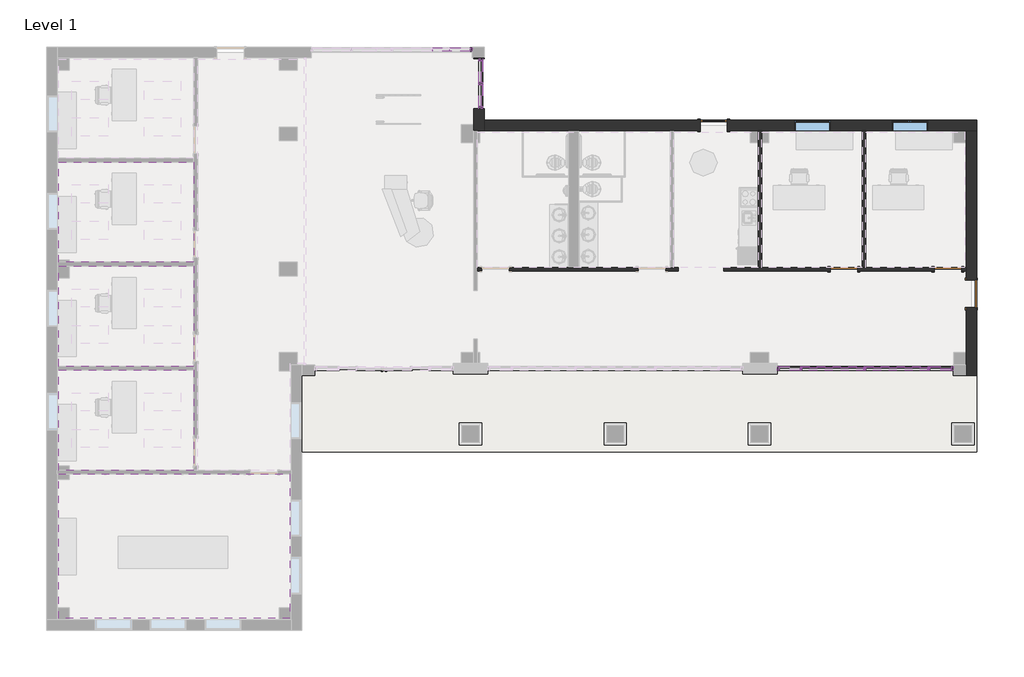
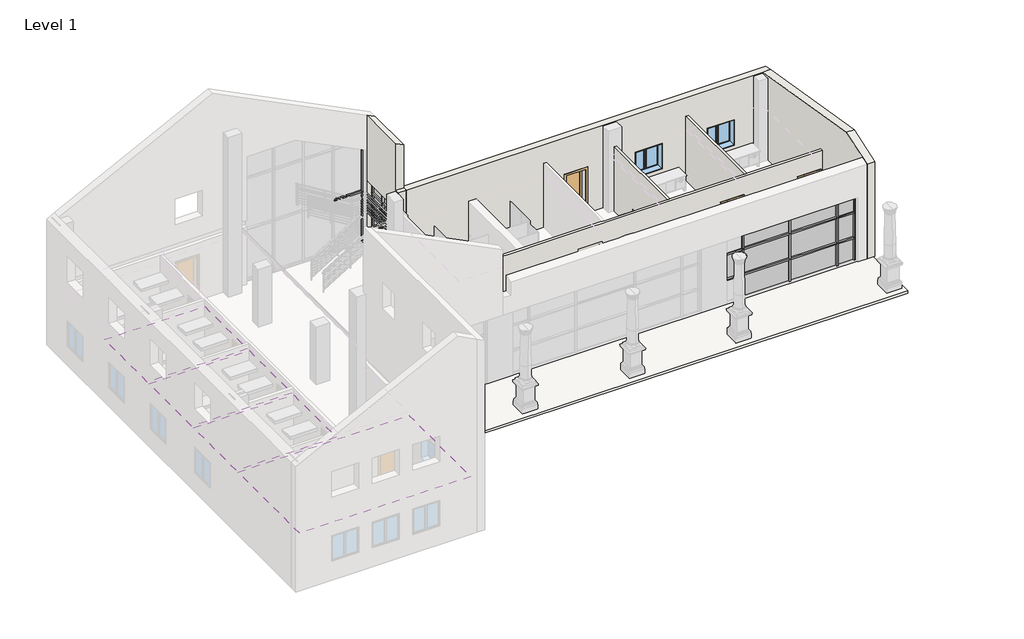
# One storey, part 3 of 8: 43 members, 14 plates, 6 walls, 4 coverings, 4 doors, 2 windows, 1 slab.
"""IFC4 building model written with IfcOpenShell, lengths in millimetres."""

from ifc_helpers import new_model, si_unit, point, frame, origin, origin_with_axes, place, context, project, spatial, polyline, ellipse_curve, trimmed, outline, extrude, faceted_brep, transform, mapped, element, save
from ifc_brep_helpers import plane_surface, extruded_surface, advanced_brep
from components import door_cc5399a4, door_88503111, door_14e9a3b2, member_a715cb85, member_2b49869a, member_4f1c84db, member_c7c5a8a0, member_a43dcf29, member_c4de40ee, member_75074519, member_13dc6413, member_3374d9b6, member_c17f1be2, member_f0fea5a5, member_ee409385, member_ba1b3d85, member_3a0a7659, member_7b995701, member_3ca69e07, member_338de68b, member_170a6c2d, member_29905024, member_21124f0b, member_e196a3dc, system_panel_glazed_93fe6fa7, system_panel_glazed_6ce5e085, system_panel_glazed_7b5ce646, system_panel_glazed_6c402c5f, system_panel_glazed_28aac04d, system_panel_glazed_65d20654, system_panel_glazed_ef97d2b3, system_panel_glazed_49c46af5, system_panel_solid_fb0cd2a2, window_75435c65

model = new_model("IFC4")

# Units and contexts
model_context = context("Model", 3, world=origin())
ifc_project = project(units=[si_unit("LENGTHUNIT", "METRE", prefix="MILLI")], contexts=[model_context])

# Site, building, storey
site = spatial("IfcSite", under=ifc_project)
building = spatial("IfcBuilding", under=site)
storey = spatial("IfcBuildingStorey", under=building, Name="Level 1", Elevation=0.0)

# Coverings
placement = place(None, origin())
element("IfcCovering", 1, ObjectType="2' x 4' ACT System", at=placement, inside=storey, context=model_context, shape_type="SweptSolid", body=[
    extrude(outline(polyline([(-13532.9016552, 7087.3730424), (-9011.7016552, 7087.3730424), (-9011.7016552, 3729.8105424), (-13532.9016552, 3729.8105424), (-13532.9016552, 7087.3730424)]), holes=[polyline([(-11881.9016552, 5713.3917924), (-11881.9016552, 6322.9917924), (-13101.1016552, 6322.9917924), (-13101.1016552, 5713.3917924), (-11881.9016552, 5713.3917924)]), polyline([(-10662.7016552, 5713.3917924), (-9443.5016552, 5713.3917924), (-9443.5016552, 6322.9917924), (-10662.7016552, 6322.9917924), (-10662.7016552, 5713.3917924)]), polyline([(-10662.7016552, 4494.1917924), (-9443.5016552, 4494.1917924), (-9443.5016552, 5103.7917924), (-10662.7016552, 5103.7917924), (-10662.7016552, 4494.1917924)]), polyline([(-11881.9016552, 5103.7917924), (-13101.1016552, 5103.7917924), (-13101.1016552, 4494.1917924), (-11881.9016552, 4494.1917924), (-11881.9016552, 5103.7917924)])]), frame((0.0, 0.0, 2438.4), z_axis=(0.0, 0.0, 1.0), x_axis=(1.0, 0.0, 0.0)), (0.0, 0.0, 1.0), 57.15),
])
element("IfcCovering", 2, ObjectType="2' x 4' ACT System", at=placement, inside=storey, context=model_context, shape_type="SweptSolid", body=[
    extrude(outline(polyline([(-13532.9016552, 3605.9855424), (-9011.7016552, 3605.9855424), (-9011.7016552, 248.4230424), (-13532.9016552, 248.4230424), (-13532.9016552, 3605.9855424)]), holes=[polyline([(-11881.9016552, 2232.0042924), (-11881.9016552, 2841.6042924), (-13101.1016552, 2841.6042924), (-13101.1016552, 2232.0042924), (-11881.9016552, 2232.0042924)]), polyline([(-10662.7016552, 2232.0042924), (-9443.5016552, 2232.0042924), (-9443.5016552, 2841.6042924), (-10662.7016552, 2841.6042924), (-10662.7016552, 2232.0042924)]), polyline([(-10662.7016552, 1012.8042924), (-9443.5016552, 1012.8042924), (-9443.5016552, 1622.4042924), (-10662.7016552, 1622.4042924), (-10662.7016552, 1012.8042924)]), polyline([(-11881.9016552, 1622.4042924), (-13101.1016552, 1622.4042924), (-13101.1016552, 1012.8042924), (-11881.9016552, 1012.8042924), (-11881.9016552, 1622.4042924)])]), frame((0.0, 0.0, 2438.4), z_axis=(0.0, 0.0, 1.0), x_axis=(1.0, 0.0, 0.0)), (0.0, 0.0, 1.0), 57.15),
])
element("IfcCovering", 3, ObjectType="2' x 4' ACT System", at=placement, inside=storey, context=model_context, shape_type="SweptSolid", body=[
    extrude(outline(polyline([(-13532.9016552, 124.5980424), (-9011.7016552, 124.5980424), (-9011.7016552, -3232.9644576), (-13532.9016552, -3232.9644576), (-13532.9016552, 124.5980424)]), holes=[polyline([(-11881.9016552, -1249.3832076), (-11881.9016552, -639.7832076), (-13101.1016552, -639.7832076), (-13101.1016552, -1249.3832076), (-11881.9016552, -1249.3832076)]), polyline([(-10662.7016552, -1249.3832076), (-9443.5016552, -1249.3832076), (-9443.5016552, -639.7832076), (-10662.7016552, -639.7832076), (-10662.7016552, -1249.3832076)]), polyline([(-10662.7016552, -2468.5832076), (-9443.5016552, -2468.5832076), (-9443.5016552, -1858.9832076), (-10662.7016552, -1858.9832076), (-10662.7016552, -2468.5832076)]), polyline([(-11881.9016552, -1858.9832076), (-13101.1016552, -1858.9832076), (-13101.1016552, -2468.5832076), (-11881.9016552, -2468.5832076), (-11881.9016552, -1858.9832076)])]), frame((0.0, 0.0, 2438.4), z_axis=(0.0, 0.0, 1.0), x_axis=(1.0, 0.0, 0.0)), (0.0, 0.0, 1.0), 57.15),
])
element("IfcCovering", 4, ObjectType="5/8\" GWB on Mtl. Stud", at=placement, inside=storey, context=model_context, shape_type="SweptSolid", body=[
    extrude(outline(polyline([(-13532.9016552, -3356.7894576), (-5804.9516552, -3356.7894576), (-5804.9516552, -8182.7894576), (-13532.9016552, -8182.7894576), (-13532.9016552, -3356.7894576)])), frame((0.0, 0.0, 2438.4), z_axis=(0.0, 0.0, 1.0), x_axis=(1.0, 0.0, 0.0)), (0.0, 0.0, 1.0), 107.95),
])

# Doors
door_shape = door_cc5399a4(model_context)
element("IfcDoor", 5, ObjectType="Single-Flush : 36\" x 84\"", at=placement, inside=storey, context=model_context, shape_type="MappedRepresentation", body=[
    mapped(door_shape, transform((16977.2608448, 2672.5355424, 0.0), x_axis=(0.0, 1.0, 0.0), y_axis=(-1.0, 0.0, 0.0), z_axis=(0.0, 0.0, 1.0))),
])
door_2_shape = door_88503111(model_context)
element("IfcDoor", 6, ObjectType="Single-Flush : 36\" x 84\"", at=placement, inside=storey, context=model_context, shape_type="MappedRepresentation", body=[
    mapped(door_2_shape, transform((16191.4483448, 3496.4480424, 0.0), x_axis=(1.0, 0.0, 0.0), y_axis=(0.0, 1.0, 0.0), z_axis=(0.0, 0.0, 1.0))),
])
element("IfcDoor", 7, ObjectType="Single-Flush : 36\" x 84\"", at=placement, inside=storey, context=model_context, shape_type="MappedRepresentation", body=[
    mapped(door_2_shape, transform((12714.8233448, 3496.4480424, 0.0), x_axis=(1.0, 0.0, 0.0), y_axis=(0.0, 1.0, 0.0), z_axis=(0.0, 0.0, 1.0))),
])
door_3_shape = door_14e9a3b2(model_context)
element("IfcDoor", 8, ObjectType="Single-Glass 1 : 36\" x 84\"", at=placement, inside=storey, context=model_context, shape_type="MappedRepresentation", body=[
    mapped(door_3_shape, transform((8365.0733448, 8306.5730424, 0.0), x_axis=(1.0, 0.0, 0.0), y_axis=(0.0, 1.0, 0.0), z_axis=(0.0, 0.0, 1.0))),
])

# Members
member_shape = member_a715cb85(model_context)
element("IfcMember", 9, ObjectType="Rectangular Mullion : 2.5\" x 5\" Rectangular", at=placement, inside=storey, context=model_context, shape_type="MappedRepresentation", body=[
    mapped(member_shape, transform((10519.3108448, 175.3980424, 0.0), x_axis=(1.0, 0.0, 0.0), y_axis=(0.0, -1.0, 0.0), z_axis=(0.0, 0.0, -1.0))),
])
element("IfcMember", 10, ObjectType="Rectangular Mullion : 2.5\" x 5\" Rectangular", at=placement, inside=storey, context=model_context, shape_type="MappedRepresentation", body=[
    mapped(member_shape, transform((11281.3108448, 175.3980424, 0.0), x_axis=(1.0, 0.0, 0.0), y_axis=(0.0, -1.0, 0.0), z_axis=(0.0, 0.0, -1.0))),
])
element("IfcMember", 11, ObjectType="Rectangular Mullion : 2.5\" x 5\" Rectangular", at=placement, inside=storey, context=model_context, shape_type="MappedRepresentation", body=[
    mapped(member_shape, transform((13414.9108448, 175.3980424, 0.0), x_axis=(1.0, 0.0, 0.0), y_axis=(0.0, -1.0, 0.0), z_axis=(0.0, 0.0, -1.0))),
])
element("IfcMember", 12, ObjectType="Rectangular Mullion : 2.5\" x 5\" Rectangular", at=placement, inside=storey, context=model_context, shape_type="MappedRepresentation", body=[
    mapped(member_shape, transform((15548.5108448, 175.3980424, 0.0), x_axis=(1.0, 0.0, 0.0), y_axis=(0.0, -1.0, 0.0), z_axis=(0.0, 0.0, -1.0))),
])
member_2_shape = member_2b49869a(model_context)
element("IfcMember", 13, ObjectType="Rectangular Mullion : 2.5\" x 5\" Rectangular", at=placement, inside=storey, context=model_context, shape_type="MappedRepresentation", body=[
    mapped(member_2_shape, transform((10519.3108448, 175.3980424, 1066.8), x_axis=(1.0, 0.0, 0.0), y_axis=(0.0, -1.0, 0.0), z_axis=(0.0, 0.0, -1.0))),
])
element("IfcMember", 14, ObjectType="Rectangular Mullion : 2.5\" x 5\" Rectangular", at=placement, inside=storey, context=model_context, shape_type="MappedRepresentation", body=[
    mapped(member_2_shape, transform((11281.3108448, 175.3980424, 1066.8), x_axis=(1.0, 0.0, 0.0), y_axis=(0.0, -1.0, 0.0), z_axis=(0.0, 0.0, -1.0))),
])
element("IfcMember", 15, ObjectType="Rectangular Mullion : 2.5\" x 5\" Rectangular", at=placement, inside=storey, context=model_context, shape_type="MappedRepresentation", body=[
    mapped(member_2_shape, transform((13414.9108448, 175.3980424, 1066.8), x_axis=(1.0, 0.0, 0.0), y_axis=(0.0, -1.0, 0.0), z_axis=(0.0, 0.0, -1.0))),
])
element("IfcMember", 16, ObjectType="Rectangular Mullion : 2.5\" x 5\" Rectangular", at=placement, inside=storey, context=model_context, shape_type="MappedRepresentation", body=[
    mapped(member_2_shape, transform((15548.5108448, 175.3980424, 1066.8), x_axis=(1.0, 0.0, 0.0), y_axis=(0.0, -1.0, 0.0), z_axis=(0.0, 0.0, -1.0))),
])
member_3_shape = member_4f1c84db(model_context)
element("IfcMember", 17, ObjectType="Rectangular Mullion : 2.5\" x 5\" Rectangular", at=placement, inside=storey, context=model_context, shape_type="MappedRepresentation", body=[
    mapped(member_3_shape, transform((15516.7608448, 175.3980424, 2286.0), x_axis=(0.0, 0.0, 1.0), y_axis=(0.0, -1.0, 0.0), z_axis=(1.0, 0.0, 0.0))),
])
element("IfcMember", 18, ObjectType="Rectangular Mullion : 2.5\" x 5\" Rectangular", at=placement, inside=storey, context=model_context, shape_type="MappedRepresentation", body=[
    mapped(member_3_shape, transform((13383.1608448, 175.3980424, 2286.0), x_axis=(0.0, 0.0, 1.0), y_axis=(0.0, -1.0, 0.0), z_axis=(1.0, 0.0, 0.0))),
])
element("IfcMember", 19, ObjectType="Rectangular Mullion : 2.5\" x 5\" Rectangular", at=placement, inside=storey, context=model_context, shape_type="MappedRepresentation", body=[
    mapped(member_3_shape, transform((13383.1608448, 175.3980424, 1066.8), x_axis=(0.0, 0.0, 1.0), y_axis=(0.0, -1.0, 0.0), z_axis=(1.0, 0.0, 0.0))),
])
element("IfcMember", 20, ObjectType="Rectangular Mullion : 2.5\" x 5\" Rectangular", at=placement, inside=storey, context=model_context, shape_type="MappedRepresentation", body=[
    mapped(member_3_shape, transform((15516.7608448, 175.3980424, 1066.8), x_axis=(0.0, 0.0, 1.0), y_axis=(0.0, -1.0, 0.0), z_axis=(1.0, 0.0, 0.0))),
])
member_4_shape = member_c7c5a8a0(model_context)
element("IfcMember", 21, ObjectType="Rectangular Mullion : 2.5\" x 5\" Rectangular", at=placement, inside=storey, context=model_context, shape_type="MappedRepresentation", body=[
    mapped(member_4_shape, transform((11249.5608448, 175.3980424, 2286.0), x_axis=(0.0, 0.0, 1.0), y_axis=(0.0, -1.0, 0.0), z_axis=(1.0, 0.0, 0.0))),
])
element("IfcMember", 22, ObjectType="Rectangular Mullion : 2.5\" x 5\" Rectangular", at=placement, inside=storey, context=model_context, shape_type="MappedRepresentation", body=[
    mapped(member_4_shape, transform((11249.5608448, 175.3980424, 1066.8), x_axis=(0.0, 0.0, 1.0), y_axis=(0.0, -1.0, 0.0), z_axis=(1.0, 0.0, 0.0))),
])
member_5_shape = member_a43dcf29(model_context)
element("IfcMember", 23, ObjectType="Rectangular Mullion : 2.5\" x 5\" Rectangular", at=placement, inside=storey, context=model_context, shape_type="MappedRepresentation", body=[
    mapped(member_5_shape, transform((16304.1608448, 175.3980424, 2286.0), x_axis=(0.0, 0.0, 1.0), y_axis=(0.0, -1.0, 0.0), z_axis=(1.0, 0.0, 0.0))),
])
element("IfcMember", 24, ObjectType="Rectangular Mullion : 2.5\" x 5\" Rectangular", at=placement, inside=storey, context=model_context, shape_type="MappedRepresentation", body=[
    mapped(member_5_shape, transform((16304.1608448, 175.3980424, 1066.8), x_axis=(0.0, 0.0, 1.0), y_axis=(0.0, -1.0, 0.0), z_axis=(1.0, 0.0, 0.0))),
])
member_6_shape = member_c4de40ee(model_context)
element("IfcMember", 25, ObjectType="Rectangular Mullion : 2.5\" x 5\" Rectangular", at=placement, inside=storey, context=model_context, shape_type="MappedRepresentation", body=[
    mapped(member_6_shape, transform((16367.6608448, 175.3980424, 0.0), x_axis=(1.0, 0.0, 0.0), y_axis=(0.0, -1.0, 0.0), z_axis=(0.0, 0.0, -1.0))),
])
member_7_shape = member_75074519(model_context)
element("IfcMember", 26, ObjectType="Rectangular Mullion : 2.5\" x 5\" Rectangular", at=placement, inside=storey, context=model_context, shape_type="MappedRepresentation", body=[
    mapped(member_7_shape, transform((16367.6608448, 175.3980424, 1066.8), x_axis=(1.0, 0.0, 0.0), y_axis=(0.0, -1.0, 0.0), z_axis=(0.0, 0.0, -1.0))),
])
member_8_shape = member_13dc6413(model_context)
element("IfcMember", 27, ObjectType="Rectangular Mullion : 2.5\" x 5\" Rectangular", at=placement, inside=storey, context=model_context, shape_type="MappedRepresentation", body=[
    mapped(member_8_shape, transform((11281.3108448, 175.3980424, 3060.0), x_axis=(0.0, 0.0, 1.0), y_axis=(0.0, -1.0, 0.0), z_axis=(1.0, 0.0, 0.0))),
])
member_9_shape = member_3374d9b6(model_context)
element("IfcMember", 28, ObjectType="Rectangular Mullion : 2.5\" x 5\" Rectangular", at=placement, inside=storey, context=model_context, shape_type="MappedRepresentation", body=[
    mapped(member_9_shape, transform((15548.5108448, 175.3980424, 3060.0), x_axis=(0.0, 0.0, 1.0), y_axis=(0.0, -1.0, 0.0), z_axis=(1.0, 0.0, 0.0))),
])
element("IfcMember", 29, ObjectType="Rectangular Mullion : 2.5\" x 5\" Rectangular", at=placement, inside=storey, context=model_context, shape_type="MappedRepresentation", body=[
    mapped(member_9_shape, transform((13414.9108448, 175.3980424, 3060.0), x_axis=(0.0, 0.0, 1.0), y_axis=(0.0, -1.0, 0.0), z_axis=(1.0, 0.0, 0.0))),
])
member_10_shape = member_c17f1be2(model_context)
element("IfcMember", 30, ObjectType="Rectangular Mullion : 2.5\" x 5\" Rectangular", at=placement, inside=storey, context=model_context, shape_type="MappedRepresentation", body=[
    mapped(member_10_shape, transform((16367.6608448, 175.3980424, 3060.0), x_axis=(0.0, 0.0, 1.0), y_axis=(0.0, -1.0, 0.0), z_axis=(1.0, 0.0, 0.0))),
])
member_11_shape = member_f0fea5a5(model_context)
element("IfcMember", 31, ObjectType="Rectangular Mullion : 2.5\" x 5\" Rectangular", at=placement, inside=storey, context=model_context, shape_type="MappedRepresentation", body=[
    mapped(member_11_shape, transform((581.5608448, 9701.9855424, 0.0), x_axis=(0.0, -1.0, 0.0), y_axis=(-1.0, 0.0, 0.0), z_axis=(0.0, 0.0, -1.0))),
])
member_12_shape = member_ee409385(model_context)
element("IfcMember", 32, ObjectType="Rectangular Mullion : 2.5\" x 5\" Rectangular", at=placement, inside=storey, context=model_context, shape_type="MappedRepresentation", body=[
    mapped(member_12_shape, transform((291.0483448, 10846.5730424, 0.0), x_axis=(1.0, 0.0, 0.0), y_axis=(0.0, -1.0, 0.0), z_axis=(0.0, 0.0, -1.0))),
])
element("IfcMember", 33, ObjectType="Rectangular Mullion : 2.5\" x 5\" Rectangular", at=placement, inside=storey, context=model_context, shape_type="MappedRepresentation", body=[
    mapped(member_12_shape, transform((581.5608448, 8863.7855424, 0.0), x_axis=(0.0, -1.0, 0.0), y_axis=(-1.0, 0.0, 0.0), z_axis=(0.0, 0.0, -1.0))),
])
element("IfcMember", 34, ObjectType="Rectangular Mullion : 2.5\" x 5\" Rectangular", at=placement, inside=storey, context=model_context, shape_type="MappedRepresentation", body=[
    mapped(member_12_shape, transform((581.5608448, 10540.1855424, 2438.4), x_axis=(0.0, 1.0, 0.0), y_axis=(-1.0, 0.0, 0.0), z_axis=(0.0, 0.0, 1.0))),
])
member_13_shape = member_ba1b3d85(model_context)
element("IfcMember", 35, ObjectType="Rectangular Mullion : 2.5\" x 5\" Rectangular", at=placement, inside=storey, context=model_context, shape_type="MappedRepresentation", body=[
    mapped(member_13_shape, transform((227.5483448, 10846.5730424, 2438.4), x_axis=(0.0, 0.0, 1.0), y_axis=(0.0, -1.0, 0.0), z_axis=(1.0, 0.0, 0.0))),
])
member_14_shape = member_3a0a7659(model_context)
element("IfcMember", 36, ObjectType="Rectangular Mullion : 2.5\" x 5\" Rectangular", at=placement, inside=storey, context=model_context, shape_type="MappedRepresentation", body=[
    mapped(member_14_shape, transform((581.5608448, 8927.2855424, 3060.0), x_axis=(0.0, 0.0, 1.0), y_axis=(-1.0, 0.0, 0.0), z_axis=(0.0, -1.0, 0.0))),
])
element("IfcMember", 37, ObjectType="Rectangular Mullion : 2.5\" x 5\" Rectangular", at=placement, inside=storey, context=model_context, shape_type="MappedRepresentation", body=[
    mapped(member_14_shape, transform((581.5608448, 9733.7355424, 3060.0), x_axis=(0.0, 0.0, 1.0), y_axis=(-1.0, 0.0, 0.0), z_axis=(0.0, -1.0, 0.0))),
])
element("IfcMember", 38, ObjectType="Rectangular Mullion : 2.5\" x 5\" Rectangular", at=placement, inside=storey, context=model_context, shape_type="MappedRepresentation", body=[
    mapped(member_14_shape, transform((581.5608448, 10476.6855424, 0.0), x_axis=(0.0, 0.0, -1.0), y_axis=(-1.0, 0.0, 0.0), z_axis=(0.0, 1.0, 0.0))),
])
element("IfcMember", 39, ObjectType="Rectangular Mullion : 2.5\" x 5\" Rectangular", at=placement, inside=storey, context=model_context, shape_type="MappedRepresentation", body=[
    mapped(member_14_shape, transform((581.5608448, 9670.2355424, 0.0), x_axis=(0.0, 0.0, -1.0), y_axis=(-1.0, 0.0, 0.0), z_axis=(0.0, 1.0, 0.0))),
])
member_15_shape = member_7b995701(model_context)
element("IfcMember", 40, ObjectType="Rectangular Mullion : 2.5\" x 5\" Rectangular", at=placement, inside=storey, context=model_context, shape_type="MappedRepresentation", body=[
    mapped(member_15_shape, transform((581.5608448, 9733.7355424, 2438.4), x_axis=(0.0, 0.0, 1.0), y_axis=(-1.0, 0.0, 0.0), z_axis=(0.0, -1.0, 0.0))),
])
element("IfcMember", 41, ObjectType="Rectangular Mullion : 2.5\" x 5\" Rectangular", at=placement, inside=storey, context=model_context, shape_type="MappedRepresentation", body=[
    mapped(member_15_shape, transform((581.5608448, 8927.2855424, 2438.4), x_axis=(0.0, 0.0, 1.0), y_axis=(-1.0, 0.0, 0.0), z_axis=(0.0, -1.0, 0.0))),
])
member_16_shape = member_3ca69e07(model_context)
element("IfcMember", 42, ObjectType="Rectangular Mullion : 2.5\" x 5\" Rectangular", at=placement, inside=storey, context=model_context, shape_type="MappedRepresentation", body=[
    mapped(member_16_shape, transform((10519.3108448, 175.3980424, 2286.0), x_axis=(1.0, 0.0, 0.0), y_axis=(0.0, -1.0, 0.0), z_axis=(0.0, 0.0, -1.0))),
])
element("IfcMember", 43, ObjectType="Rectangular Mullion : 2.5\" x 5\" Rectangular", at=placement, inside=storey, context=model_context, shape_type="MappedRepresentation", body=[
    mapped(member_16_shape, transform((11281.3108448, 175.3980424, 2286.0), x_axis=(1.0, 0.0, 0.0), y_axis=(0.0, -1.0, 0.0), z_axis=(0.0, 0.0, -1.0))),
])
element("IfcMember", 44, ObjectType="Rectangular Mullion : 2.5\" x 5\" Rectangular", at=placement, inside=storey, context=model_context, shape_type="MappedRepresentation", body=[
    mapped(member_16_shape, transform((13414.9108448, 175.3980424, 2286.0), x_axis=(1.0, 0.0, 0.0), y_axis=(0.0, -1.0, 0.0), z_axis=(0.0, 0.0, -1.0))),
])
element("IfcMember", 45, ObjectType="Rectangular Mullion : 2.5\" x 5\" Rectangular", at=placement, inside=storey, context=model_context, shape_type="MappedRepresentation", body=[
    mapped(member_16_shape, transform((15548.5108448, 175.3980424, 2286.0), x_axis=(1.0, 0.0, 0.0), y_axis=(0.0, -1.0, 0.0), z_axis=(0.0, 0.0, -1.0))),
])
member_17_shape = member_338de68b(model_context)
element("IfcMember", 46, ObjectType="Rectangular Mullion : 2.5\" x 5\" Rectangular", at=placement, inside=storey, context=model_context, shape_type="MappedRepresentation", body=[
    mapped(member_17_shape, transform((16367.6608448, 175.3980424, 2286.0), x_axis=(1.0, 0.0, 0.0), y_axis=(0.0, -1.0, 0.0), z_axis=(0.0, 0.0, -1.0))),
])
member_18_shape = member_170a6c2d(model_context)
element("IfcMember", 47, ObjectType="Rectangular Mullion : 2.5\" x 5\" Rectangular", at=placement, inside=storey, context=model_context, shape_type="MappedRepresentation", body=[
    mapped(member_18_shape, transform((291.0483448, 10846.5730424, 4512.0662011), x_axis=(0.4472135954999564, 0.0, 0.8944271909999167), y_axis=(0.0, -1.0, 0.0), z_axis=(0.8944271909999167, 0.0, -0.4472135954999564))),
])
member_19_shape = member_29905024(model_context)
element("IfcMember", 48, ObjectType="Rectangular Mullion : 2.5\" x 5\" Rectangular", at=placement, inside=storey, context=model_context, shape_type="MappedRepresentation", body=[
    mapped(member_19_shape, transform((291.0483448, 10846.5730424, 2438.4), x_axis=(1.0, 0.0, 0.0), y_axis=(0.0, -1.0, 0.0), z_axis=(0.0, 0.0, -1.0))),
])
member_20_shape = member_21124f0b(model_context)
element("IfcMember", 49, ObjectType="Rectangular Mullion : 2.5\" x 5\" Rectangular", at=placement, inside=storey, context=model_context, shape_type="MappedRepresentation", body=[
    mapped(member_20_shape, transform((581.5608448, 9701.9855424, 2438.4), x_axis=(0.0, -1.0, 0.0), y_axis=(-1.0, 0.0, 0.0), z_axis=(0.0, 0.0, -1.0))),
])
member_21_shape = member_e196a3dc(model_context)
element("IfcMember", 50, ObjectType="Rectangular Mullion : 2.5\" x 5\" Rectangular", at=placement, inside=storey, context=model_context, shape_type="MappedRepresentation", body=[
    mapped(member_21_shape, transform((581.5608448, 8863.7855424, 2438.4), x_axis=(0.0, -1.0, 0.0), y_axis=(-1.0, 0.0, 0.0), z_axis=(0.0, 0.0, -1.0))),
])
element("IfcMember", 51, ObjectType="Rectangular Mullion : 2.5\" x 5\" Rectangular", at=placement, inside=storey, context=model_context, shape_type="MappedRepresentation", body=[
    mapped(member_21_shape, transform((581.5608448, 10540.1855424, 3060.0), x_axis=(0.0, 1.0, 0.0), y_axis=(-1.0, 0.0, 0.0), z_axis=(0.0, 0.0, 1.0))),
])

# Plates
system_panel_glazed_shape = system_panel_glazed_93fe6fa7(model_context)
element("IfcPlate", 52, ObjectType="System Panel : Glazed", at=placement, inside=storey, context=model_context, shape_type="MappedRepresentation", body=[
    mapped(system_panel_glazed_shape, transform((12348.1108448, 175.3980424, 0.0), x_axis=(1.0, 0.0, 0.0), y_axis=(0.0, 1.0, 0.0), z_axis=(0.0, 0.0, 1.0))),
])
element("IfcPlate", 53, ObjectType="System Panel : Glazed", at=placement, inside=storey, context=model_context, shape_type="MappedRepresentation", body=[
    mapped(system_panel_glazed_shape, transform((14481.7108448, 175.3980424, 0.0), x_axis=(1.0, 0.0, 0.0), y_axis=(0.0, 1.0, 0.0), z_axis=(0.0, 0.0, 1.0))),
])
system_panel_glazed_2_shape = system_panel_glazed_6ce5e085(model_context)
element("IfcPlate", 54, ObjectType="System Panel : Glazed", at=placement, inside=storey, context=model_context, shape_type="MappedRepresentation", body=[
    mapped(system_panel_glazed_2_shape, transform((12348.1108448, 175.3980424, 1098.55), x_axis=(1.0, 0.0, 0.0), y_axis=(0.0, 1.0, 0.0), z_axis=(0.0, 0.0, 1.0))),
])
element("IfcPlate", 55, ObjectType="System Panel : Glazed", at=placement, inside=storey, context=model_context, shape_type="MappedRepresentation", body=[
    mapped(system_panel_glazed_2_shape, transform((14481.7108448, 175.3980424, 1098.55), x_axis=(1.0, 0.0, 0.0), y_axis=(0.0, 1.0, 0.0), z_axis=(0.0, 0.0, 1.0))),
])
system_panel_glazed_3_shape = system_panel_glazed_7b5ce646(model_context)
element("IfcPlate", 56, ObjectType="System Panel : Glazed", at=placement, inside=storey, context=model_context, shape_type="MappedRepresentation", body=[
    mapped(system_panel_glazed_3_shape, transform((10900.3108448, 175.3980424, 1098.55), x_axis=(1.0, 0.0, 0.0), y_axis=(0.0, 1.0, 0.0), z_axis=(0.0, 0.0, 1.0))),
])
system_panel_glazed_4_shape = system_panel_glazed_6c402c5f(model_context)
element("IfcPlate", 57, ObjectType="System Panel : Glazed", at=placement, inside=storey, context=model_context, shape_type="MappedRepresentation", body=[
    mapped(system_panel_glazed_4_shape, transform((15942.2108448, 175.3980424, 0.0), x_axis=(1.0, 0.0, 0.0), y_axis=(0.0, 1.0, 0.0), z_axis=(0.0, 0.0, 1.0))),
])
system_panel_glazed_5_shape = system_panel_glazed_28aac04d(model_context)
element("IfcPlate", 58, ObjectType="System Panel : Glazed", at=placement, inside=storey, context=model_context, shape_type="MappedRepresentation", body=[
    mapped(system_panel_glazed_5_shape, transform((15942.2108448, 175.3980424, 1098.55), x_axis=(1.0, 0.0, 0.0), y_axis=(0.0, 1.0, 0.0), z_axis=(0.0, 0.0, 1.0))),
])
system_panel_glazed_6_shape = system_panel_glazed_65d20654(model_context)
element("IfcPlate", 59, ObjectType="System Panel : Glazed", at=placement, inside=storey, context=model_context, shape_type="MappedRepresentation", body=[
    mapped(system_panel_glazed_6_shape, transform((581.5608448, 10105.2105424, 63.5), x_axis=(0.0, -1.0, 0.0), y_axis=(1.0, 0.0, 0.0), z_axis=(0.0, 0.0, 1.0))),
])
element("IfcPlate", 60, ObjectType="System Panel : Glazed", at=placement, inside=storey, context=model_context, shape_type="MappedRepresentation", body=[
    mapped(system_panel_glazed_6_shape, transform((581.5608448, 9298.7605424, 63.5), x_axis=(0.0, -1.0, 0.0), y_axis=(1.0, 0.0, 0.0), z_axis=(0.0, 0.0, 1.0))),
])
system_panel_glazed_7_shape = system_panel_glazed_ef97d2b3(model_context)
element("IfcPlate", 61, ObjectType="System Panel : Glazed", at=placement, inside=storey, context=model_context, shape_type="MappedRepresentation", body=[
    mapped(system_panel_glazed_7_shape, transform((12348.1108448, 175.3980424, 2317.75), x_axis=(1.0, 0.0, 0.0), y_axis=(0.0, 1.0, 0.0), z_axis=(0.0, 0.0, 1.0))),
])
element("IfcPlate", 62, ObjectType="System Panel : Glazed", at=placement, inside=storey, context=model_context, shape_type="MappedRepresentation", body=[
    mapped(system_panel_glazed_7_shape, transform((14481.7108448, 175.3980424, 2317.75), x_axis=(1.0, 0.0, 0.0), y_axis=(0.0, 1.0, 0.0), z_axis=(0.0, 0.0, 1.0))),
])
system_panel_glazed_8_shape = system_panel_glazed_49c46af5(model_context)
element("IfcPlate", 63, ObjectType="System Panel : Glazed", at=placement, inside=storey, context=model_context, shape_type="MappedRepresentation", body=[
    mapped(system_panel_glazed_8_shape, transform((581.5608448, 10105.2105424, 2470.15), x_axis=(0.0, -1.0, 0.0), y_axis=(1.0, 0.0, 0.0), z_axis=(0.0, 0.0, 1.0))),
])
element("IfcPlate", 64, ObjectType="System Panel : Glazed", at=placement, inside=storey, context=model_context, shape_type="MappedRepresentation", body=[
    mapped(system_panel_glazed_8_shape, transform((581.5608448, 9298.7605424, 2470.15), x_axis=(0.0, -1.0, 0.0), y_axis=(1.0, 0.0, 0.0), z_axis=(0.0, 0.0, 1.0))),
])
system_panel_solid_shape = system_panel_solid_fb0cd2a2(model_context)
element("IfcPlate", 65, ObjectType="System Panel : Solid", at=placement, inside=storey, context=model_context, shape_type="MappedRepresentation", body=[
    mapped(system_panel_solid_shape, transform((15942.2108448, 175.3980424, 2317.75), x_axis=(1.0, 0.0, 0.0), y_axis=(0.0, 1.0, 0.0), z_axis=(0.0, 0.0, 1.0))),
])

# Slab
element("IfcSlab", 66, ObjectType="4\" Concrete Slab", at=placement, inside=storey, context=model_context, shape_type="SweptSolid", body=[
    extrude(outline(polyline([(17153.4733448, 124.5980424), (17153.4733448, -2618.6019576), (-5401.7266552, -2618.6019576), (-5401.7266552, 124.5980424), (17153.4733448, 124.5980424)])), frame((0.0, 0.0, -203.2), z_axis=(0.0, 0.0, 1.0), x_axis=(1.0, 0.0, 0.0)), (0.0, 0.0, 1.0), 101.6),
])

# Walls
element("IfcWall", 67, ObjectType="Exterior - Brick on Mtl. Stud", at=placement, inside=storey, context=model_context, shape_type="Brep", body=[
    faceted_brep([(341.8483448, 8306.5730424, 6182.55), (341.8483448, 10568.7605424, 6182.55), (341.8483448, 10568.7605424, 0.0), (341.8483448, 10540.1855424, 0.0), (341.8483448, 10540.1855424, 3060.0), (341.8483448, 8863.7855424, 3060.0), (341.8483448, 8863.7855424, 0.0), (341.8483448, 8333.5605424, 0.0), (341.8483448, 8130.3605424, 0.0), (341.8483448, 8130.3605424, 3060.0), (341.8483448, 8130.3605424, 3958.7375), (341.8483448, 8306.5730424, 3958.7375), (694.2733448, 10568.7605424, 6006.3375), (694.2733448, 8306.5730424, 6006.3375), (694.2733448, 8306.5730424, 3958.7375), (694.2733448, 8130.3605424, 3958.7375), (694.2733448, 8130.3605424, 3060.0), (694.2733448, 8130.3605424, 0.0), (694.2733448, 8482.7855424, 0.0), (694.2733448, 8863.7855424, 0.0), (694.2733448, 8863.7855424, 3060.0), (694.2733448, 10540.1855424, 3060.0), (694.2733448, 10540.1855424, 0.0), (694.2733448, 10568.7605424, 0.0), (541.8733448, 8130.3605424, 0.0), (465.6733448, 8130.3605424, 0.0)], [[[0, 1, 2, 3, 4, 5, 6, 7, 8, 9, 10, 11]], [[12, 13, 14, 15, 16, 17, 18, 19, 20, 21, 22, 23]], [[2, 23, 22, 3]], [[17, 24, 25, 8, 7, 6, 19, 18]], [[1, 0, 13, 12]], [[13, 0, 11, 14]], [[14, 11, 10, 15]], [[8, 25, 24, 17, 16, 15, 10, 9]], [[2, 1, 12, 23]], [[21, 4, 3, 22]], [[4, 21, 20, 5]], [[5, 20, 19, 6]]]),
])
element("IfcWall", 68, ObjectType="Exterior - Brick on Mtl. Stud", at=placement, inside=storey, context=model_context, shape_type="Brep", body=[
    faceted_brep([(8822.2733448, 8130.3605424, 2133.6), (8822.2733448, 8130.3605424, 0.0), (9587.4483448, 8130.3605424, 0.0), (9847.7983448, 8130.3605424, 0.0), (9971.6233448, 8130.3605424, 0.0), (10197.0483448, 8130.3605424, 0.0), (13324.4233448, 8130.3605424, 0.0), (13448.2483448, 8130.3605424, 0.0), (16394.6483448, 8130.3605424, 0.0), (16801.0483448, 8130.3605424, 0.0), (17153.4733448, 8130.3605424, 0.0), (17153.4733448, 8130.3605424, 3958.7375), (16801.0483448, 8130.3605424, 3958.7375), (694.2733448, 8130.3605424, 3958.7375), (694.2733448, 8130.3605424, 0.0), (3513.6733448, 8130.3605424, 0.0), (3856.5733448, 8130.3605424, 0.0), (6904.5733448, 8130.3605424, 0.0), (7028.3983448, 8130.3605424, 0.0), (7907.8733448, 8130.3605424, 0.0), (7907.8733448, 8130.3605424, 2133.6), (12276.6733448, 8130.3605424, 2133.6), (12276.6733448, 8130.3605424, 914.4), (11057.4733448, 8130.3605424, 914.4), (11057.4733448, 8130.3605424, 2133.6), (15527.8733448, 8130.3605424, 2133.6), (15527.8733448, 8130.3605424, 914.4), (14308.6733448, 8130.3605424, 914.4), (14308.6733448, 8130.3605424, 2133.6), (17153.4733448, 8482.7855424, 0.0), (8822.2733448, 8482.7855424, 0.0), (8822.2733448, 8482.7855424, 2133.6), (7907.8733448, 8482.7855424, 2133.6), (7907.8733448, 8482.7855424, 0.0), (694.2733448, 8482.7855424, 0.0), (694.2733448, 8482.7855424, 3900.0), (17153.4733448, 8482.7855424, 3900.0), (12276.6733448, 8482.7855424, 2133.6), (11057.4733448, 8482.7855424, 2133.6), (11057.4733448, 8482.7855424, 914.4), (12276.6733448, 8482.7855424, 914.4), (15527.8733448, 8482.7855424, 2133.6), (14308.6733448, 8482.7855424, 2133.6), (14308.6733448, 8482.7855424, 914.4), (15527.8733448, 8482.7855424, 914.4)], [[[0, 1, 2, 3, 4, 5, 6, 7, 8, 9, 10, 11, 12, 13, 14, 15, 16, 17, 18, 19, 20], [21, 22, 23, 24], [25, 26, 27, 28]], [[29, 30, 31, 32, 33, 34, 35, 36], [37, 38, 39, 40], [41, 42, 43, 44]], [[10, 9, 8, 7, 6, 5, 4, 3, 2, 1, 30, 29]], [[19, 18, 17, 16, 15, 14, 34, 33]], [[31, 30, 1, 0]], [[32, 31, 0, 20]], [[33, 32, 20, 19]], [[22, 21, 37, 40]], [[23, 22, 40, 39]], [[24, 23, 39, 38]], [[21, 24, 38, 37]], [[26, 25, 41, 44]], [[27, 26, 44, 43]], [[28, 27, 43, 42]], [[25, 28, 42, 41]], [[11, 10, 29, 36]], [[13, 35, 34, 14]], [[13, 12, 11, 36, 35]]]),
])
element("IfcWall", 69, ObjectType="Exterior - Brick on Mtl. Stud", at=placement, inside=storey, context=model_context, shape_type="Brep", body=[
    faceted_brep([(16801.0483448, 8130.3605424, 0.0), (16801.0483448, 7723.9605424, 0.0), (16801.0483448, 3558.3605424, 0.0), (16801.0483448, 3434.5355424, 0.0), (16801.0483448, 3129.7355424, 0.0), (16801.0483448, 3129.7355424, 2133.6), (16801.0483448, 2215.3355424, 2133.6), (16801.0483448, 2215.3355424, 0.0), (16801.0483448, 707.2105424, 0.0), (16801.0483448, 300.8105424, 0.0), (16801.0483448, -51.6144576, 0.0), (16801.0483448, -51.6144576, 4509.6), (16801.0483448, 300.8105424, 4627.075), (16801.0483448, 1573.9855424, 5051.4666667), (16801.0483448, 8130.3605424, 3958.7375), (16801.0483448, 8130.3605424, 3900.0), (17153.4733448, 3129.7355424, 2133.6), (17153.4733448, 3129.7355424, 0.0), (17153.4733448, 8130.3605424, 0.0), (17153.4733448, 8130.3605424, 3958.7375), (17153.4733448, 1573.9855424, 5051.4666667), (17153.4733448, -51.6144576, 4509.6), (17153.4733448, -51.6144576, 0.0), (17153.4733448, 2215.3355424, 0.0), (17153.4733448, 2215.3355424, 2133.6)], [[[0, 1, 2, 3, 4, 5, 6, 7, 8, 9, 10, 11, 12, 13, 14, 15]], [[16, 17, 18, 19, 20, 21, 22, 23, 24]], [[23, 22, 10, 9, 8, 7]], [[18, 17, 4, 3, 2, 1, 0]], [[5, 4, 17, 16]], [[6, 5, 16, 24]], [[7, 6, 24, 23]], [[14, 13, 20, 19]], [[13, 12, 11, 21, 20]], [[11, 10, 22, 21]], [[0, 15, 14, 19, 18]]]),
])
element("IfcWall", 70, ObjectType="Interior - 4 7/8\" Partition (1-hr)", at=placement, inside=storey, context=model_context, shape_type="AdvancedBrep", body=[
    advanced_brep(
    [(6752.1733448, 3434.5355424, 0.0), (7180.7983448, 3434.5355424, 0.0), (7180.7983448, 3434.5355424, 1828.8), (8704.7983448, 3434.5355424, 1828.8), (8704.7983448, 3434.5355424, 0.0), (12257.6233448, 3434.5355424, 0.0), (12257.6233448, 3434.5355424, 2133.6), (13172.0233448, 3434.5355424, 2133.6), (13172.0233448, 3434.5355424, 0.0), (15734.2483448, 3434.5355424, 0.0), (15734.2483448, 3434.5355424, 2133.6), (16648.6483448, 3434.5355424, 2133.6), (16648.6483448, 3434.5355424, 0.0), (16801.0483448, 3434.5355424, 0.0), (16801.0483448, 3434.5355424, 3060.0), (465.6733448, 3434.5355424, 3060.0), (465.6733448, 3434.5355424, 0.0), (618.0733448, 3434.5355424, 0.0), (618.0733448, 3434.5355424, 2133.6), (1532.4733448, 3434.5355424, 2133.6), (1532.4733448, 3434.5355424, 0.0), (5837.7733448, 3434.5355424, 0.0), (5837.7733448, 3434.5355424, 2133.6), (6752.1733448, 3434.5355424, 2133.6), (7180.7983448, 3558.3605424, 1828.8), (7180.7983448, 3558.3605424, 0.0), (7028.3983448, 3558.3605424, 0.0), (6904.5733448, 3558.3605424, 0.0), (6752.1733448, 3558.3605424, 0.0), (6752.1733448, 3558.3605424, 2133.6), (5837.7733448, 3558.3605424, 2133.6), (5837.7733448, 3558.3605424, 0.0), (3856.5733448, 3558.3605424, 0.0), (3513.6733448, 3558.3605424, 0.0), (1532.4733448, 3558.3605424, 0.0), (1532.4733448, 3558.3605424, 2133.6), (618.0733448, 3558.3605424, 2133.6), (618.0733448, 3558.3605424, 0.0), (465.6733448, 3558.3605424, 0.0), (465.6733448, 3558.3605424, 3060.0), (6904.5733448, 3558.3605424, 3060.0), (7028.3983448, 3558.3605424, 3060.0), (9847.7983448, 3558.3605424, 3060.0), (9971.6233448, 3558.3605424, 3060.0), (13324.4233448, 3558.3605424, 3060.0), (13448.2483448, 3558.3605424, 3060.0), (16801.0483448, 3558.3605424, 3060.0), (16801.0483448, 3558.3605424, 0.0), (16648.6483448, 3558.3605424, 0.0), (16648.6483448, 3558.3605424, 2133.6), (15734.2483448, 3558.3605424, 2133.6), (15734.2483448, 3558.3605424, 0.0), (13448.2483448, 3558.3605424, 0.0), (13324.4233448, 3558.3605424, 0.0), (13172.0233448, 3558.3605424, 0.0), (13172.0233448, 3558.3605424, 2133.6), (12257.6233448, 3558.3605424, 2133.6), (12257.6233448, 3558.3605424, 0.0), (9971.6233448, 3558.3605424, 0.0), (9847.7983448, 3558.3605424, 0.0), (8704.7983448, 3558.3605424, 0.0), (8704.7983448, 3558.3605424, 1828.8)],
    [
        (0, 1),
        (1, 2),
        (2, 3, ellipse_curve(frame((7942.7983448, 3434.5355424, 1828.8), z_axis=(0.0, 1.0, 0.0), x_axis=(-1.0, 0.0, 0.0)), 762.0, 304.8)),
        (3, 4),
        (4, 5),
        (5, 6),
        (6, 7),
        (7, 8),
        (8, 9),
        (9, 10),
        (10, 11),
        (11, 12),
        (12, 13),
        (13, 14),
        (14, 15),
        (15, 16),
        (16, 17),
        (17, 18),
        (18, 19),
        (19, 20),
        (20, 21),
        (21, 22),
        (22, 23),
        (23, 0),
        (24, 25),
        (25, 26),
        (26, 27),
        (27, 28),
        (28, 29),
        (29, 30),
        (30, 31),
        (31, 32),
        (32, 33),
        (33, 34),
        (34, 35),
        (35, 36),
        (36, 37),
        (37, 38),
        (38, 39),
        (39, 40),
        (40, 41),
        (41, 42),
        (42, 43),
        (43, 44),
        (44, 45),
        (45, 46),
        (46, 47),
        (47, 48),
        (48, 49),
        (49, 50),
        (50, 51),
        (51, 52),
        (52, 53),
        (53, 54),
        (54, 55),
        (55, 56),
        (56, 57),
        (57, 58),
        (58, 59),
        (59, 60),
        (60, 61),
        (61, 24, ellipse_curve(frame((7942.7983448, 3558.3605424, 1828.8), z_axis=(0.0, -1.0, 0.0), x_axis=(-1.0, 0.0, 0.0)), 762.0, 304.8)),
        (12, 48),
        (47, 13),
        (8, 54),
        (51, 9),
        (37, 17),
        (16, 38),
        (31, 21),
        (20, 34),
        (25, 1),
        (0, 28),
        (57, 5),
        (4, 60),
        (14, 46),
        (39, 15),
        (11, 49),
        (10, 50),
        (7, 55),
        (6, 56),
        (23, 29),
        (22, 30),
        (36, 18),
        (35, 19),
        (2, 24),
        (61, 3),
    ],
    [
        plane_surface(frame((2521.2785775, 3434.5355424, 0.0), z_axis=(0.0, -1.0, 0.0), x_axis=(1.0, 0.0, 0.0))),
        plane_surface(frame((2521.2785775, 3558.3605424, 0.0), z_axis=(0.0, 1.0, 0.0), x_axis=(-1.0, 0.0, 0.0))),
        plane_surface(frame((403.7608448, 3434.5355424, 0.0), z_axis=(0.0, 0.0, -1.0), x_axis=(0.0, 1.0, 0.0))),
        plane_surface(frame((16977.2608448, 3434.5355424, 3060.0), z_axis=(0.0, 0.0, 1.0), x_axis=(0.0, 1.0, 0.0))),
        plane_surface(frame((465.6733448, 8306.5730424, 0.0), z_axis=(-1.0, 0.0, 0.0), x_axis=(0.0, 1.0, 0.0))),
        plane_surface(frame((16648.6483448, 3558.3605424, 0.0), z_axis=(-1.0, 0.0, 0.0), x_axis=(0.0, -1.0, 0.0))),
        plane_surface(frame((16648.6483448, 3558.3605424, 2133.6), z_axis=(0.0, 0.0, -1.0), x_axis=(0.0, -1.0, 0.0))),
        plane_surface(frame((15734.2483448, 3558.3605424, 2133.6), z_axis=(1.0, 0.0, 0.0), x_axis=(0.0, -1.0, 0.0))),
        plane_surface(frame((13172.0233448, 3558.3605424, 0.0), z_axis=(-1.0, 0.0, 0.0), x_axis=(0.0, -1.0, 0.0))),
        plane_surface(frame((13172.0233448, 3558.3605424, 2133.6), z_axis=(0.0, 0.0, -1.0), x_axis=(0.0, -1.0, 0.0))),
        plane_surface(frame((12257.6233448, 3558.3605424, 2133.6), z_axis=(1.0, 0.0, 0.0), x_axis=(0.0, -1.0, 0.0))),
        plane_surface(frame((6752.1733448, 3558.3605424, 0.0), z_axis=(-1.0, 0.0, 0.0), x_axis=(0.0, -1.0, 0.0))),
        plane_surface(frame((6752.1733448, 3558.3605424, 2133.6), z_axis=(0.0, 0.0, -1.0), x_axis=(0.0, -1.0, 0.0))),
        plane_surface(frame((5837.7733448, 3558.3605424, 2133.6), z_axis=(1.0, 0.0, 0.0), x_axis=(0.0, -1.0, 0.0))),
        plane_surface(frame((618.0733448, 3434.5355424, 0.0), z_axis=(1.0, 0.0, 0.0), x_axis=(0.0, 1.0, 0.0))),
        plane_surface(frame((618.0733448, 3434.5355424, 2133.6), z_axis=(0.0, 0.0, -1.0), x_axis=(0.0, 1.0, 0.0))),
        plane_surface(frame((1532.4733448, 3434.5355424, 2133.6), z_axis=(-1.0, 0.0, 0.0), x_axis=(0.0, 1.0, 0.0))),
        extruded_surface(trimmed(ellipse_curve(frame((7942.7983448, 3682.1855424, 1828.8), z_axis=(0.0, 1.0, 0.0), x_axis=(-1.0, 0.0, 0.0)), 762.0, 304.8), [point((7180.7983448, 3682.1855424, 1828.8))], [point((8704.7983448, 3682.1855424, 1828.8))], True, "CARTESIAN"), (0.0, -123.82499999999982, 0.0), 123.82499999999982),
        plane_surface(frame((8704.7983448, 3434.5355424, 1828.8), z_axis=(-1.0, 0.0, 0.0), x_axis=(0.0, 1.0, 0.0))),
        plane_surface(frame((7180.7983448, 3434.5355424, 0.0), z_axis=(1.0, 0.0, 0.0), x_axis=(0.0, 1.0, 0.0))),
        plane_surface(frame((16801.0483448, 7181.0355424, 0.0), z_axis=(1.0, 0.0, 0.0), x_axis=(0.0, -1.0, 0.0))),
    ],
    [
        (0, [[1, 2, 3, 4, 5, 6, 7, 8, 9, 10, 11, 12, 13, 14, 15, 16, 17, 18, 19, 20, 21, 22, 23, 24]]),
        (1, [[25, 26, 27, 28, 29, 30, 31, 32, 33, 34, 35, 36, 37, 38, 39, 40, 41, 42, 43, 44, 45, 46, 47, 48, 49, 50, 51, 52, 53, 54, 55, 56, 57, 58, 59, 60, 61, 62]]),
        (2, [[-13, 63, -48, 64]]),
        (2, [[-9, 65, -54, -53, -52, 66]]),
        (2, [[-38, 67, -17, 68]]),
        (2, [[-34, -33, -32, 69, -21, 70]]),
        (2, [[-28, -27, -26, 71, -1, 72]]),
        (2, [[-60, -59, -58, 73, -5, 74]]),
        (3, [[-15, 75, -46, -45, -44, -43, -42, -41, -40, 76]]),
        (4, [[-16, -76, -39, -68]]),
        (5, [[-49, -63, -12, 77]]),
        (6, [[-50, -77, -11, 78]]),
        (7, [[-51, -78, -10, -66]]),
        (8, [[-55, -65, -8, 79]]),
        (9, [[-56, -79, -7, 80]]),
        (10, [[-57, -80, -6, -73]]),
        (11, [[-29, -72, -24, 81]]),
        (12, [[-30, -81, -23, 82]]),
        (13, [[-31, -82, -22, -69]]),
        (14, [[-18, -67, -37, 83]]),
        (15, [[-19, -83, -36, 84]]),
        (16, [[-20, -84, -35, -70]]),
        (17, [[-3, 85, -62, 86]]),
        (18, [[-4, -86, -61, -74]]),
        (19, [[-2, -71, -25, -85]]),
        (20, [[-14, -64, -47, -75]]),
    ],
),
])
element("IfcWall", 71, ObjectType="Interior - 4 7/8\" Partition (1-hr)", at=placement, inside=storey, context=model_context, shape_type="Brep", body=[
    faceted_brep([(9847.7983448, 8130.3605424, 0.0), (9847.7983448, 7723.9605424, 0.0), (9847.7983448, 3558.3605424, 0.0), (9847.7983448, 3558.3605424, 3060.0), (9847.7983448, 7723.9605424, 3060.0), (9847.7983448, 8130.3605424, 3060.0), (9971.6233448, 8130.3605424, 0.0), (9971.6233448, 8130.3605424, 3060.0), (9971.6233448, 7723.9605424, 3060.0), (9971.6233448, 3558.3605424, 3060.0), (9971.6233448, 3558.3605424, 0.0), (9971.6233448, 7723.9605424, 0.0)], [[[0, 1, 2, 3, 4, 5]], [[6, 7, 8, 9, 10, 11]], [[2, 1, 0, 6, 11, 10]], [[5, 4, 3, 9, 8, 7]], [[3, 2, 10, 9]], [[0, 5, 7, 6]]]),
])
element("IfcWall", 72, ObjectType="Interior - 4 7/8\" Partition (1-hr)", at=placement, inside=storey, context=model_context, shape_type="SweptSolid", body=[
    extrude(outline(polyline([(13324.4233448, 3558.3605424), (13324.4233448, 8130.3605424), (13448.2483448, 8130.3605424), (13448.2483448, 3558.3605424), (13324.4233448, 3558.3605424)])), origin_with_axes(), (0.0, 0.0, 1.0), 3060.0),
])

# Windows
window_shape = window_75435c65(model_context)
element("IfcWindow", 73, ObjectType="Casement Double : 48\" x 48\"", at=placement, inside=storey, context=model_context, shape_type="MappedRepresentation", body=[
    mapped(window_shape, transform((11667.0733448, 8287.5230424, 0.0), x_axis=(1.0, 0.0, 0.0), y_axis=(0.0, 1.0, 0.0), z_axis=(0.0, 0.0, 1.0))),
])
element("IfcWindow", 74, ObjectType="Casement Double : 48\" x 48\"", at=placement, inside=storey, context=model_context, shape_type="MappedRepresentation", body=[
    mapped(window_shape, transform((14918.2733448, 8287.5230424, 0.0), x_axis=(1.0, 0.0, 0.0), y_axis=(0.0, 1.0, 0.0), z_axis=(0.0, 0.0, 1.0))),
])

save(model, "model.ifc")
